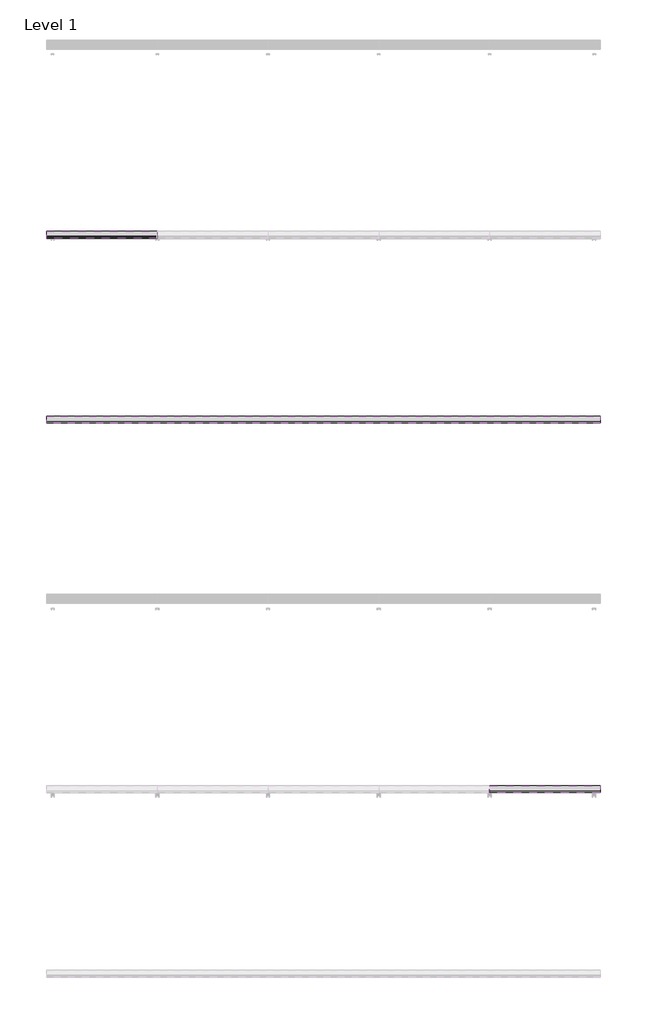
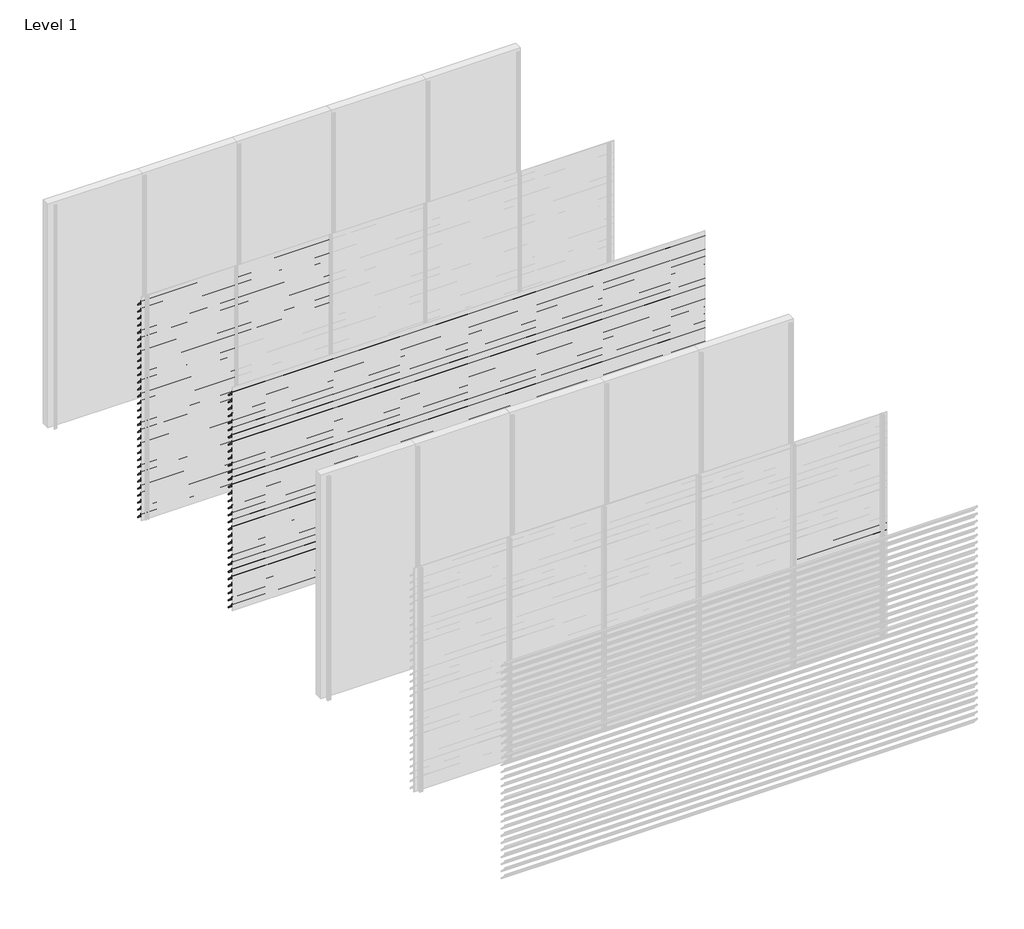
# One storey, part 20 of 24: 89 proxies.
"""IFC4 building model written with IfcOpenShell, lengths in millimetres."""

from ifc_helpers import new_model, si_unit, frame, origin, place, context, project, spatial, polyline, outline, extrude, element, save

model = new_model("IFC4")

# Units and contexts
model_context = context("Model", 3, world=origin())
ifc_project = project(units=[si_unit("LENGTHUNIT", "METRE", prefix="MILLI")], contexts=[model_context])

# Site, building, storey
site = spatial("IfcSite", under=ifc_project)
building = spatial("IfcBuilding", under=site)
storey = spatial("IfcBuildingStorey", under=building, Name="Level 1", Elevation=0.0)

# Proxies
placement = place(None, origin())
element("IfcBuildingElementProxy", 1, Name="Wall Sweeps", at=placement, inside=storey, context=model_context, shape_type="SweptSolid", body=[
    extrude(outline(polyline([(-5920.8, 2842.9), (-5922.3, 2842.9), (-5922.3, 2855.1762333), (-5998.0, 2930.4561238), (-5998.0, 2945.0), (-5996.5, 2945.0), (-5996.5, 2931.0798905), (-5920.8, 2855.8), (-5920.8, 2842.9)])), frame((0.0, 0.0, 0.0), z_axis=(1.0, 0.0, 0.0), x_axis=(0.0, 1.0, 0.0)), (0.0, 0.0, 1.0), 1200.0),
])
element("IfcBuildingElementProxy", 2, Name="Wall Sweeps", at=placement, inside=storey, context=model_context, shape_type="SweptSolid", body=[
    extrude(outline(polyline([(-5920.8, 2747.9), (-5922.3, 2747.9), (-5922.3, 2760.1762333), (-5998.0, 2835.4561238), (-5998.0, 2850.0), (-5996.5, 2850.0), (-5996.5, 2836.0798905), (-5920.8, 2760.8), (-5920.8, 2747.9)])), frame((0.0, 0.0, 0.0), z_axis=(1.0, 0.0, 0.0), x_axis=(0.0, 1.0, 0.0)), (0.0, 0.0, 1.0), 1200.0),
])
element("IfcBuildingElementProxy", 3, Name="Wall Sweeps", at=placement, inside=storey, context=model_context, shape_type="SweptSolid", body=[
    extrude(outline(polyline([(-5920.8, 2652.9), (-5922.3, 2652.9), (-5922.3, 2665.1762333), (-5998.0, 2740.4561238), (-5998.0, 2755.0), (-5996.5, 2755.0), (-5996.5, 2741.0798905), (-5920.8, 2665.8), (-5920.8, 2652.9)])), frame((0.0, 0.0, 0.0), z_axis=(1.0, 0.0, 0.0), x_axis=(0.0, 1.0, 0.0)), (0.0, 0.0, 1.0), 1200.0),
])
element("IfcBuildingElementProxy", 4, Name="Wall Sweeps", at=placement, inside=storey, context=model_context, shape_type="SweptSolid", body=[
    extrude(outline(polyline([(-5920.8, 2557.9), (-5922.3, 2557.9), (-5922.3, 2570.1762333), (-5998.0, 2645.4561238), (-5998.0, 2660.0), (-5996.5, 2660.0), (-5996.5, 2646.0798905), (-5920.8, 2570.8), (-5920.8, 2557.9)])), frame((0.0, 0.0, 0.0), z_axis=(1.0, 0.0, 0.0), x_axis=(0.0, 1.0, 0.0)), (0.0, 0.0, 1.0), 1200.0),
])
element("IfcBuildingElementProxy", 5, Name="Wall Sweeps", at=placement, inside=storey, context=model_context, shape_type="SweptSolid", body=[
    extrude(outline(polyline([(-5920.8, 2462.9), (-5922.3, 2462.9), (-5922.3, 2475.1762333), (-5998.0, 2550.4561238), (-5998.0, 2565.0), (-5996.5, 2565.0), (-5996.5, 2551.0798905), (-5920.8, 2475.8), (-5920.8, 2462.9)])), frame((0.0, 0.0, 0.0), z_axis=(1.0, 0.0, 0.0), x_axis=(0.0, 1.0, 0.0)), (0.0, 0.0, 1.0), 1200.0),
])
element("IfcBuildingElementProxy", 6, Name="Wall Sweeps", at=placement, inside=storey, context=model_context, shape_type="SweptSolid", body=[
    extrude(outline(polyline([(-5920.8, 2367.9), (-5922.3, 2367.9), (-5922.3, 2380.1762333), (-5998.0, 2455.4561238), (-5998.0, 2470.0), (-5996.5, 2470.0), (-5996.5, 2456.0798905), (-5920.8, 2380.8), (-5920.8, 2367.9)])), frame((0.0, 0.0, 0.0), z_axis=(1.0, 0.0, 0.0), x_axis=(0.0, 1.0, 0.0)), (0.0, 0.0, 1.0), 1200.0),
])
element("IfcBuildingElementProxy", 7, Name="Wall Sweeps", at=placement, inside=storey, context=model_context, shape_type="SweptSolid", body=[
    extrude(outline(polyline([(-5920.8, 2272.9), (-5922.3, 2272.9), (-5922.3, 2285.1762333), (-5998.0, 2360.4561238), (-5998.0, 2375.0), (-5996.5, 2375.0), (-5996.5, 2361.0798905), (-5920.8, 2285.8), (-5920.8, 2272.9)])), frame((0.0, 0.0, 0.0), z_axis=(1.0, 0.0, 0.0), x_axis=(0.0, 1.0, 0.0)), (0.0, 0.0, 1.0), 1200.0),
])
element("IfcBuildingElementProxy", 8, Name="Wall Sweeps", at=placement, inside=storey, context=model_context, shape_type="SweptSolid", body=[
    extrude(outline(polyline([(-5920.8, 2177.9), (-5922.3, 2177.9), (-5922.3, 2190.1762333), (-5998.0, 2265.4561238), (-5998.0, 2280.0), (-5996.5, 2280.0), (-5996.5, 2266.0798905), (-5920.8, 2190.8), (-5920.8, 2177.9)])), frame((0.0, 0.0, 0.0), z_axis=(1.0, 0.0, 0.0), x_axis=(0.0, 1.0, 0.0)), (0.0, 0.0, 1.0), 1200.0),
])
element("IfcBuildingElementProxy", 9, Name="Wall Sweeps", at=placement, inside=storey, context=model_context, shape_type="SweptSolid", body=[
    extrude(outline(polyline([(-5920.8, 2082.9), (-5922.3, 2082.9), (-5922.3, 2095.1762333), (-5998.0, 2170.4561238), (-5998.0, 2185.0), (-5996.5, 2185.0), (-5996.5, 2171.0798905), (-5920.8, 2095.8), (-5920.8, 2082.9)])), frame((0.0, 0.0, 0.0), z_axis=(1.0, 0.0, 0.0), x_axis=(0.0, 1.0, 0.0)), (0.0, 0.0, 1.0), 1200.0),
])
element("IfcBuildingElementProxy", 10, Name="Wall Sweeps", at=placement, inside=storey, context=model_context, shape_type="SweptSolid", body=[
    extrude(outline(polyline([(-5920.8, 1987.9), (-5922.3, 1987.9), (-5922.3, 2000.1762333), (-5998.0, 2075.4561238), (-5998.0, 2090.0), (-5996.5, 2090.0), (-5996.5, 2076.0798905), (-5920.8, 2000.8), (-5920.8, 1987.9)])), frame((0.0, 0.0, 0.0), z_axis=(1.0, 0.0, 0.0), x_axis=(0.0, 1.0, 0.0)), (0.0, 0.0, 1.0), 1200.0),
])
element("IfcBuildingElementProxy", 11, Name="Wall Sweeps", at=placement, inside=storey, context=model_context, shape_type="SweptSolid", body=[
    extrude(outline(polyline([(-5920.8, 1892.9), (-5922.3, 1892.9), (-5922.3, 1905.1762333), (-5998.0, 1980.4561238), (-5998.0, 1995.0), (-5996.5, 1995.0), (-5996.5, 1981.0798905), (-5920.8, 1905.8), (-5920.8, 1892.9)])), frame((0.0, 0.0, 0.0), z_axis=(1.0, 0.0, 0.0), x_axis=(0.0, 1.0, 0.0)), (0.0, 0.0, 1.0), 1200.0),
])
element("IfcBuildingElementProxy", 12, Name="Wall Sweeps", at=placement, inside=storey, context=model_context, shape_type="SweptSolid", body=[
    extrude(outline(polyline([(-5920.8, 1797.9), (-5922.3, 1797.9), (-5922.3, 1810.1762333), (-5998.0, 1885.4561238), (-5998.0, 1900.0), (-5996.5, 1900.0), (-5996.5, 1886.0798905), (-5920.8, 1810.8), (-5920.8, 1797.9)])), frame((0.0, 0.0, 0.0), z_axis=(1.0, 0.0, 0.0), x_axis=(0.0, 1.0, 0.0)), (0.0, 0.0, 1.0), 1200.0),
])
element("IfcBuildingElementProxy", 13, Name="Wall Sweeps", at=placement, inside=storey, context=model_context, shape_type="SweptSolid", body=[
    extrude(outline(polyline([(-5920.8, 1702.9), (-5922.3, 1702.9), (-5922.3, 1715.1762333), (-5998.0, 1790.4561238), (-5998.0, 1805.0), (-5996.5, 1805.0), (-5996.5, 1791.0798905), (-5920.8, 1715.8), (-5920.8, 1702.9)])), frame((0.0, 0.0, 0.0), z_axis=(1.0, 0.0, 0.0), x_axis=(0.0, 1.0, 0.0)), (0.0, 0.0, 1.0), 1200.0),
])
element("IfcBuildingElementProxy", 14, Name="Wall Sweeps", at=placement, inside=storey, context=model_context, shape_type="SweptSolid", body=[
    extrude(outline(polyline([(-5920.8, 1607.9), (-5922.3, 1607.9), (-5922.3, 1620.1762333), (-5998.0, 1695.4561238), (-5998.0, 1710.0), (-5996.5, 1710.0), (-5996.5, 1696.0798905), (-5920.8, 1620.8), (-5920.8, 1607.9)])), frame((0.0, 0.0, 0.0), z_axis=(1.0, 0.0, 0.0), x_axis=(0.0, 1.0, 0.0)), (0.0, 0.0, 1.0), 1200.0),
])
element("IfcBuildingElementProxy", 15, Name="Wall Sweeps", at=placement, inside=storey, context=model_context, shape_type="SweptSolid", body=[
    extrude(outline(polyline([(-5920.8, 1512.9), (-5922.3, 1512.9), (-5922.3, 1525.1762333), (-5998.0, 1600.4561238), (-5998.0, 1615.0), (-5996.5, 1615.0), (-5996.5, 1601.0798905), (-5920.8, 1525.8), (-5920.8, 1512.9)])), frame((0.0, 0.0, 0.0), z_axis=(1.0, 0.0, 0.0), x_axis=(0.0, 1.0, 0.0)), (0.0, 0.0, 1.0), 1200.0),
])
element("IfcBuildingElementProxy", 16, Name="Wall Sweeps", at=placement, inside=storey, context=model_context, shape_type="SweptSolid", body=[
    extrude(outline(polyline([(-5920.8, 1417.9), (-5922.3, 1417.9), (-5922.3, 1430.1762333), (-5998.0, 1505.4561238), (-5998.0, 1520.0), (-5996.5, 1520.0), (-5996.5, 1506.0798905), (-5920.8, 1430.8), (-5920.8, 1417.9)])), frame((0.0, 0.0, 0.0), z_axis=(1.0, 0.0, 0.0), x_axis=(0.0, 1.0, 0.0)), (0.0, 0.0, 1.0), 1200.0),
])
element("IfcBuildingElementProxy", 17, Name="Wall Sweeps", at=placement, inside=storey, context=model_context, shape_type="SweptSolid", body=[
    extrude(outline(polyline([(-5920.8, 1322.9), (-5922.3, 1322.9), (-5922.3, 1335.1762333), (-5998.0, 1410.4561238), (-5998.0, 1425.0), (-5996.5, 1425.0), (-5996.5, 1411.0798905), (-5920.8, 1335.8), (-5920.8, 1322.9)])), frame((0.0, 0.0, 0.0), z_axis=(1.0, 0.0, 0.0), x_axis=(0.0, 1.0, 0.0)), (0.0, 0.0, 1.0), 1200.0),
])
element("IfcBuildingElementProxy", 18, Name="Wall Sweeps", at=placement, inside=storey, context=model_context, shape_type="SweptSolid", body=[
    extrude(outline(polyline([(-5920.8, 1227.9), (-5922.3, 1227.9), (-5922.3, 1240.1762333), (-5998.0, 1315.4561238), (-5998.0, 1330.0), (-5996.5, 1330.0), (-5996.5, 1316.0798905), (-5920.8, 1240.8), (-5920.8, 1227.9)])), frame((0.0, 0.0, 0.0), z_axis=(1.0, 0.0, 0.0), x_axis=(0.0, 1.0, 0.0)), (0.0, 0.0, 1.0), 1200.0),
])
element("IfcBuildingElementProxy", 19, Name="Wall Sweeps", at=placement, inside=storey, context=model_context, shape_type="SweptSolid", body=[
    extrude(outline(polyline([(-5920.8, 1132.9), (-5922.3, 1132.9), (-5922.3, 1145.1762333), (-5998.0, 1220.4561238), (-5998.0, 1235.0), (-5996.5, 1235.0), (-5996.5, 1221.0798905), (-5920.8, 1145.8), (-5920.8, 1132.9)])), frame((0.0, 0.0, 0.0), z_axis=(1.0, 0.0, 0.0), x_axis=(0.0, 1.0, 0.0)), (0.0, 0.0, 1.0), 1200.0),
])
element("IfcBuildingElementProxy", 20, Name="Wall Sweeps", at=placement, inside=storey, context=model_context, shape_type="SweptSolid", body=[
    extrude(outline(polyline([(-5920.8, 1037.9), (-5922.3, 1037.9), (-5922.3, 1050.1762333), (-5998.0, 1125.4561238), (-5998.0, 1140.0), (-5996.5, 1140.0), (-5996.5, 1126.0798905), (-5920.8, 1050.8), (-5920.8, 1037.9)])), frame((0.0, 0.0, 0.0), z_axis=(1.0, 0.0, 0.0), x_axis=(0.0, 1.0, 0.0)), (0.0, 0.0, 1.0), 1200.0),
])
element("IfcBuildingElementProxy", 21, Name="Wall Sweeps", at=placement, inside=storey, context=model_context, shape_type="SweptSolid", body=[
    extrude(outline(polyline([(-5920.8, 942.9), (-5922.3, 942.9), (-5922.3, 955.1762333), (-5998.0, 1030.4561238), (-5998.0, 1045.0), (-5996.5, 1045.0), (-5996.5, 1031.0798905), (-5920.8, 955.8), (-5920.8, 942.9)])), frame((0.0, 0.0, 0.0), z_axis=(1.0, 0.0, 0.0), x_axis=(0.0, 1.0, 0.0)), (0.0, 0.0, 1.0), 1200.0),
])
element("IfcBuildingElementProxy", 22, Name="Wall Sweeps", at=placement, inside=storey, context=model_context, shape_type="SweptSolid", body=[
    extrude(outline(polyline([(-5920.8, 847.9), (-5922.3, 847.9), (-5922.3, 860.1762333), (-5998.0, 935.4561238), (-5998.0, 950.0), (-5996.5, 950.0), (-5996.5, 936.0798905), (-5920.8, 860.8), (-5920.8, 847.9)])), frame((0.0, 0.0, 0.0), z_axis=(1.0, 0.0, 0.0), x_axis=(0.0, 1.0, 0.0)), (0.0, 0.0, 1.0), 1200.0),
])
element("IfcBuildingElementProxy", 23, Name="Wall Sweeps", at=placement, inside=storey, context=model_context, shape_type="SweptSolid", body=[
    extrude(outline(polyline([(-5920.8, 752.9), (-5922.3, 752.9), (-5922.3, 765.1762333), (-5998.0, 840.4561238), (-5998.0, 855.0), (-5996.5, 855.0), (-5996.5, 841.0798905), (-5920.8, 765.8), (-5920.8, 752.9)])), frame((0.0, 0.0, 0.0), z_axis=(1.0, 0.0, 0.0), x_axis=(0.0, 1.0, 0.0)), (0.0, 0.0, 1.0), 1200.0),
])
element("IfcBuildingElementProxy", 24, Name="Wall Sweeps", at=placement, inside=storey, context=model_context, shape_type="SweptSolid", body=[
    extrude(outline(polyline([(-5920.8, 657.9), (-5922.3, 657.9), (-5922.3, 670.1762333), (-5998.0, 745.4561238), (-5998.0, 760.0), (-5996.5, 760.0), (-5996.5, 746.0798905), (-5920.8, 670.8), (-5920.8, 657.9)])), frame((0.0, 0.0, 0.0), z_axis=(1.0, 0.0, 0.0), x_axis=(0.0, 1.0, 0.0)), (0.0, 0.0, 1.0), 1200.0),
])
element("IfcBuildingElementProxy", 25, Name="Wall Sweeps", at=placement, inside=storey, context=model_context, shape_type="SweptSolid", body=[
    extrude(outline(polyline([(-5920.8, 562.9), (-5922.3, 562.9), (-5922.3, 575.1762333), (-5998.0, 650.4561238), (-5998.0, 665.0), (-5996.5, 665.0), (-5996.5, 651.0798905), (-5920.8, 575.8), (-5920.8, 562.9)])), frame((0.0, 0.0, 0.0), z_axis=(1.0, 0.0, 0.0), x_axis=(0.0, 1.0, 0.0)), (0.0, 0.0, 1.0), 1200.0),
])
element("IfcBuildingElementProxy", 26, Name="Wall Sweeps", at=placement, inside=storey, context=model_context, shape_type="SweptSolid", body=[
    extrude(outline(polyline([(-5920.8, 467.9), (-5922.3, 467.9), (-5922.3, 480.1762333), (-5998.0, 555.4561238), (-5998.0, 570.0), (-5996.5, 570.0), (-5996.5, 556.0798905), (-5920.8, 480.8), (-5920.8, 467.9)])), frame((0.0, 0.0, 0.0), z_axis=(1.0, 0.0, 0.0), x_axis=(0.0, 1.0, 0.0)), (0.0, 0.0, 1.0), 1200.0),
])
element("IfcBuildingElementProxy", 27, Name="Wall Sweeps", at=placement, inside=storey, context=model_context, shape_type="SweptSolid", body=[
    extrude(outline(polyline([(-5920.8, 372.9), (-5922.3, 372.9), (-5922.3, 385.1762333), (-5998.0, 460.4561238), (-5998.0, 475.0), (-5996.5, 475.0), (-5996.5, 461.0798905), (-5920.8, 385.8), (-5920.8, 372.9)])), frame((0.0, 0.0, 0.0), z_axis=(1.0, 0.0, 0.0), x_axis=(0.0, 1.0, 0.0)), (0.0, 0.0, 1.0), 1200.0),
])
element("IfcBuildingElementProxy", 28, Name="Wall Sweeps", at=placement, inside=storey, context=model_context, shape_type="SweptSolid", body=[
    extrude(outline(polyline([(-5920.8, 277.9), (-5922.3, 277.9), (-5922.3, 290.1762333), (-5998.0, 365.4561238), (-5998.0, 380.0), (-5996.5, 380.0), (-5996.5, 366.0798905), (-5920.8, 290.8), (-5920.8, 277.9)])), frame((0.0, 0.0, 0.0), z_axis=(1.0, 0.0, 0.0), x_axis=(0.0, 1.0, 0.0)), (0.0, 0.0, 1.0), 1200.0),
])
element("IfcBuildingElementProxy", 29, Name="Wall Sweeps", at=placement, inside=storey, context=model_context, shape_type="SweptSolid", body=[
    extrude(outline(polyline([(-5920.8, 182.9), (-5922.3, 182.9), (-5922.3, 195.1762333), (-5998.0, 270.4561238), (-5998.0, 285.0), (-5996.5, 285.0), (-5996.5, 271.0798905), (-5920.8, 195.8), (-5920.8, 182.9)])), frame((0.0, 0.0, 0.0), z_axis=(1.0, 0.0, 0.0), x_axis=(0.0, 1.0, 0.0)), (0.0, 0.0, 1.0), 1200.0),
])
element("IfcBuildingElementProxy", 30, Name="Wall Sweeps", at=placement, inside=storey, context=model_context, shape_type="SweptSolid", body=[
    extrude(outline(polyline([(-5920.8, 87.9), (-5922.3, 87.9), (-5922.3, 100.1762333), (-5998.0, 175.4561238), (-5998.0, 190.0), (-5996.5, 190.0), (-5996.5, 176.0798905), (-5920.8, 100.8), (-5920.8, 87.9)])), frame((0.0, 0.0, 0.0), z_axis=(1.0, 0.0, 0.0), x_axis=(0.0, 1.0, 0.0)), (0.0, 0.0, 1.0), 1200.0),
])
element("IfcBuildingElementProxy", 31, Name="Wall Sweeps", at=placement, inside=storey, context=model_context, shape_type="SweptSolid", body=[
    extrude(outline(polyline([(-5920.8, -7.1), (-5922.3, -7.1), (-5922.3, 5.1762333), (-5998.0, 80.4561238), (-5998.0, 95.0), (-5996.5, 95.0), (-5996.5, 81.0798905), (-5920.8, 5.8), (-5920.8, -7.1)])), frame((0.0, 0.0, 0.0), z_axis=(1.0, 0.0, 0.0), x_axis=(0.0, 1.0, 0.0)), (0.0, 0.0, 1.0), 1200.0),
])
element("IfcBuildingElementProxy", 32, Name="Wall Sweeps", at=placement, inside=storey, context=model_context, shape_type="SweptSolid", body=[
    extrude(outline(polyline([(-5920.8, 2842.9), (-5922.3, 2842.9), (-5922.3, 2855.1762333), (-5998.0, 2930.4561238), (-5998.0, 2945.0), (-5996.5, 2945.0), (-5996.5, 2931.0798905), (-5920.8, 2855.8), (-5920.8, 2842.9)])), frame((1200.0, 0.0, 0.0), z_axis=(1.0, 0.0, 0.0), x_axis=(0.0, 1.0, 0.0)), (0.0, 0.0, 1.0), 1200.0),
])
element("IfcBuildingElementProxy", 33, Name="Wall Sweeps", at=placement, inside=storey, context=model_context, shape_type="SweptSolid", body=[
    extrude(outline(polyline([(-5920.8, 2747.9), (-5922.3, 2747.9), (-5922.3, 2760.1762333), (-5998.0, 2835.4561238), (-5998.0, 2850.0), (-5996.5, 2850.0), (-5996.5, 2836.0798905), (-5920.8, 2760.8), (-5920.8, 2747.9)])), frame((1200.0, 0.0, 0.0), z_axis=(1.0, 0.0, 0.0), x_axis=(0.0, 1.0, 0.0)), (0.0, 0.0, 1.0), 1200.0),
])
element("IfcBuildingElementProxy", 34, Name="Wall Sweeps", at=placement, inside=storey, context=model_context, shape_type="SweptSolid", body=[
    extrude(outline(polyline([(-5920.8, 2652.9), (-5922.3, 2652.9), (-5922.3, 2665.1762333), (-5998.0, 2740.4561238), (-5998.0, 2755.0), (-5996.5, 2755.0), (-5996.5, 2741.0798905), (-5920.8, 2665.8), (-5920.8, 2652.9)])), frame((1200.0, 0.0, 0.0), z_axis=(1.0, 0.0, 0.0), x_axis=(0.0, 1.0, 0.0)), (0.0, 0.0, 1.0), 1200.0),
])
element("IfcBuildingElementProxy", 35, Name="Wall Sweeps", at=placement, inside=storey, context=model_context, shape_type="SweptSolid", body=[
    extrude(outline(polyline([(-5920.8, 2557.9), (-5922.3, 2557.9), (-5922.3, 2570.1762333), (-5998.0, 2645.4561238), (-5998.0, 2660.0), (-5996.5, 2660.0), (-5996.5, 2646.0798905), (-5920.8, 2570.8), (-5920.8, 2557.9)])), frame((1200.0, 0.0, 0.0), z_axis=(1.0, 0.0, 0.0), x_axis=(0.0, 1.0, 0.0)), (0.0, 0.0, 1.0), 1200.0),
])
element("IfcBuildingElementProxy", 36, Name="Wall Sweeps", at=placement, inside=storey, context=model_context, shape_type="SweptSolid", body=[
    extrude(outline(polyline([(-5920.8, 2462.9), (-5922.3, 2462.9), (-5922.3, 2475.1762333), (-5998.0, 2550.4561238), (-5998.0, 2565.0), (-5996.5, 2565.0), (-5996.5, 2551.0798905), (-5920.8, 2475.8), (-5920.8, 2462.9)])), frame((1200.0, 0.0, 0.0), z_axis=(1.0, 0.0, 0.0), x_axis=(0.0, 1.0, 0.0)), (0.0, 0.0, 1.0), 1200.0),
])
element("IfcBuildingElementProxy", 37, Name="Wall Sweeps", at=placement, inside=storey, context=model_context, shape_type="SweptSolid", body=[
    extrude(outline(polyline([(-5920.8, 2367.9), (-5922.3, 2367.9), (-5922.3, 2380.1762333), (-5998.0, 2455.4561238), (-5998.0, 2470.0), (-5996.5, 2470.0), (-5996.5, 2456.0798905), (-5920.8, 2380.8), (-5920.8, 2367.9)])), frame((1200.0, 0.0, 0.0), z_axis=(1.0, 0.0, 0.0), x_axis=(0.0, 1.0, 0.0)), (0.0, 0.0, 1.0), 1200.0),
])
element("IfcBuildingElementProxy", 38, Name="Wall Sweeps", at=placement, inside=storey, context=model_context, shape_type="SweptSolid", body=[
    extrude(outline(polyline([(-5920.8, 2272.9), (-5922.3, 2272.9), (-5922.3, 2285.1762333), (-5998.0, 2360.4561238), (-5998.0, 2375.0), (-5996.5, 2375.0), (-5996.5, 2361.0798905), (-5920.8, 2285.8), (-5920.8, 2272.9)])), frame((1200.0, 0.0, 0.0), z_axis=(1.0, 0.0, 0.0), x_axis=(0.0, 1.0, 0.0)), (0.0, 0.0, 1.0), 1200.0),
])
element("IfcBuildingElementProxy", 39, Name="Wall Sweeps", at=placement, inside=storey, context=model_context, shape_type="SweptSolid", body=[
    extrude(outline(polyline([(-5920.8, 2177.9), (-5922.3, 2177.9), (-5922.3, 2190.1762333), (-5998.0, 2265.4561238), (-5998.0, 2280.0), (-5996.5, 2280.0), (-5996.5, 2266.0798905), (-5920.8, 2190.8), (-5920.8, 2177.9)])), frame((1200.0, 0.0, 0.0), z_axis=(1.0, 0.0, 0.0), x_axis=(0.0, 1.0, 0.0)), (0.0, 0.0, 1.0), 1200.0),
])
element("IfcBuildingElementProxy", 40, Name="Wall Sweeps", at=placement, inside=storey, context=model_context, shape_type="SweptSolid", body=[
    extrude(outline(polyline([(-5920.8, 2082.9), (-5922.3, 2082.9), (-5922.3, 2095.1762333), (-5998.0, 2170.4561238), (-5998.0, 2185.0), (-5996.5, 2185.0), (-5996.5, 2171.0798905), (-5920.8, 2095.8), (-5920.8, 2082.9)])), frame((1200.0, 0.0, 0.0), z_axis=(1.0, 0.0, 0.0), x_axis=(0.0, 1.0, 0.0)), (0.0, 0.0, 1.0), 1200.0),
])
element("IfcBuildingElementProxy", 41, Name="Wall Sweeps", at=placement, inside=storey, context=model_context, shape_type="SweptSolid", body=[
    extrude(outline(polyline([(-5920.8, 1987.9), (-5922.3, 1987.9), (-5922.3, 2000.1762333), (-5998.0, 2075.4561238), (-5998.0, 2090.0), (-5996.5, 2090.0), (-5996.5, 2076.0798905), (-5920.8, 2000.8), (-5920.8, 1987.9)])), frame((1200.0, 0.0, 0.0), z_axis=(1.0, 0.0, 0.0), x_axis=(0.0, 1.0, 0.0)), (0.0, 0.0, 1.0), 1200.0),
])
element("IfcBuildingElementProxy", 42, Name="Wall Sweeps", at=placement, inside=storey, context=model_context, shape_type="SweptSolid", body=[
    extrude(outline(polyline([(-5920.8, 1892.9), (-5922.3, 1892.9), (-5922.3, 1905.1762333), (-5998.0, 1980.4561238), (-5998.0, 1995.0), (-5996.5, 1995.0), (-5996.5, 1981.0798905), (-5920.8, 1905.8), (-5920.8, 1892.9)])), frame((1200.0, 0.0, 0.0), z_axis=(1.0, 0.0, 0.0), x_axis=(0.0, 1.0, 0.0)), (0.0, 0.0, 1.0), 1200.0),
])
element("IfcBuildingElementProxy", 43, Name="Wall Sweeps", at=placement, inside=storey, context=model_context, shape_type="SweptSolid", body=[
    extrude(outline(polyline([(-7920.8, 2842.9), (-7922.3, 2842.9), (-7922.3, 2855.1762333), (-7998.0, 2930.4561238), (-7998.0, 2945.0), (-7996.5, 2945.0), (-7996.5, 2931.0798905), (-7920.8, 2855.8), (-7920.8, 2842.9)])), frame((0.0, 0.0, 0.0), z_axis=(1.0, 0.0, 0.0), x_axis=(0.0, 1.0, 0.0)), (0.0, 0.0, 1.0), 6000.0),
])
element("IfcBuildingElementProxy", 44, Name="Wall Sweeps", at=placement, inside=storey, context=model_context, shape_type="SweptSolid", body=[
    extrude(outline(polyline([(-7920.8, 2747.9), (-7922.3, 2747.9), (-7922.3, 2760.1762333), (-7998.0, 2835.4561238), (-7998.0, 2850.0), (-7996.5, 2850.0), (-7996.5, 2836.0798905), (-7920.8, 2760.8), (-7920.8, 2747.9)])), frame((0.0, 0.0, 0.0), z_axis=(1.0, 0.0, 0.0), x_axis=(0.0, 1.0, 0.0)), (0.0, 0.0, 1.0), 6000.0),
])
element("IfcBuildingElementProxy", 45, Name="Wall Sweeps", at=placement, inside=storey, context=model_context, shape_type="SweptSolid", body=[
    extrude(outline(polyline([(-7920.8, 2652.9), (-7922.3, 2652.9), (-7922.3, 2665.1762333), (-7998.0, 2740.4561238), (-7998.0, 2755.0), (-7996.5, 2755.0), (-7996.5, 2741.0798905), (-7920.8, 2665.8), (-7920.8, 2652.9)])), frame((0.0, 0.0, 0.0), z_axis=(1.0, 0.0, 0.0), x_axis=(0.0, 1.0, 0.0)), (0.0, 0.0, 1.0), 6000.0),
])
element("IfcBuildingElementProxy", 46, Name="Wall Sweeps", at=placement, inside=storey, context=model_context, shape_type="SweptSolid", body=[
    extrude(outline(polyline([(-7920.8, 2557.9), (-7922.3, 2557.9), (-7922.3, 2570.1762333), (-7998.0, 2645.4561238), (-7998.0, 2660.0), (-7996.5, 2660.0), (-7996.5, 2646.0798905), (-7920.8, 2570.8), (-7920.8, 2557.9)])), frame((0.0, 0.0, 0.0), z_axis=(1.0, 0.0, 0.0), x_axis=(0.0, 1.0, 0.0)), (0.0, 0.0, 1.0), 6000.0),
])
element("IfcBuildingElementProxy", 47, Name="Wall Sweeps", at=placement, inside=storey, context=model_context, shape_type="SweptSolid", body=[
    extrude(outline(polyline([(-7920.8, 2462.9), (-7922.3, 2462.9), (-7922.3, 2475.1762333), (-7998.0, 2550.4561238), (-7998.0, 2565.0), (-7996.5, 2565.0), (-7996.5, 2551.0798905), (-7920.8, 2475.8), (-7920.8, 2462.9)])), frame((0.0, 0.0, 0.0), z_axis=(1.0, 0.0, 0.0), x_axis=(0.0, 1.0, 0.0)), (0.0, 0.0, 1.0), 6000.0),
])
element("IfcBuildingElementProxy", 48, Name="Wall Sweeps", at=placement, inside=storey, context=model_context, shape_type="SweptSolid", body=[
    extrude(outline(polyline([(-7920.8, 2367.9), (-7922.3, 2367.9), (-7922.3, 2380.1762333), (-7998.0, 2455.4561238), (-7998.0, 2470.0), (-7996.5, 2470.0), (-7996.5, 2456.0798905), (-7920.8, 2380.8), (-7920.8, 2367.9)])), frame((0.0, 0.0, 0.0), z_axis=(1.0, 0.0, 0.0), x_axis=(0.0, 1.0, 0.0)), (0.0, 0.0, 1.0), 6000.0),
])
element("IfcBuildingElementProxy", 49, Name="Wall Sweeps", at=placement, inside=storey, context=model_context, shape_type="SweptSolid", body=[
    extrude(outline(polyline([(-7920.8, 2272.9), (-7922.3, 2272.9), (-7922.3, 2285.1762333), (-7998.0, 2360.4561238), (-7998.0, 2375.0), (-7996.5, 2375.0), (-7996.5, 2361.0798905), (-7920.8, 2285.8), (-7920.8, 2272.9)])), frame((0.0, 0.0, 0.0), z_axis=(1.0, 0.0, 0.0), x_axis=(0.0, 1.0, 0.0)), (0.0, 0.0, 1.0), 6000.0),
])
element("IfcBuildingElementProxy", 50, Name="Wall Sweeps", at=placement, inside=storey, context=model_context, shape_type="SweptSolid", body=[
    extrude(outline(polyline([(-7920.8, 2177.9), (-7922.3, 2177.9), (-7922.3, 2190.1762333), (-7998.0, 2265.4561238), (-7998.0, 2280.0), (-7996.5, 2280.0), (-7996.5, 2266.0798905), (-7920.8, 2190.8), (-7920.8, 2177.9)])), frame((0.0, 0.0, 0.0), z_axis=(1.0, 0.0, 0.0), x_axis=(0.0, 1.0, 0.0)), (0.0, 0.0, 1.0), 6000.0),
])
element("IfcBuildingElementProxy", 51, Name="Wall Sweeps", at=placement, inside=storey, context=model_context, shape_type="SweptSolid", body=[
    extrude(outline(polyline([(-7920.8, 2082.9), (-7922.3, 2082.9), (-7922.3, 2095.1762333), (-7998.0, 2170.4561238), (-7998.0, 2185.0), (-7996.5, 2185.0), (-7996.5, 2171.0798905), (-7920.8, 2095.8), (-7920.8, 2082.9)])), frame((0.0, 0.0, 0.0), z_axis=(1.0, 0.0, 0.0), x_axis=(0.0, 1.0, 0.0)), (0.0, 0.0, 1.0), 6000.0),
])
element("IfcBuildingElementProxy", 52, Name="Wall Sweeps", at=placement, inside=storey, context=model_context, shape_type="SweptSolid", body=[
    extrude(outline(polyline([(-7920.8, 1987.9), (-7922.3, 1987.9), (-7922.3, 2000.1762333), (-7998.0, 2075.4561238), (-7998.0, 2090.0), (-7996.5, 2090.0), (-7996.5, 2076.0798905), (-7920.8, 2000.8), (-7920.8, 1987.9)])), frame((0.0, 0.0, 0.0), z_axis=(1.0, 0.0, 0.0), x_axis=(0.0, 1.0, 0.0)), (0.0, 0.0, 1.0), 6000.0),
])
element("IfcBuildingElementProxy", 53, Name="Wall Sweeps", at=placement, inside=storey, context=model_context, shape_type="SweptSolid", body=[
    extrude(outline(polyline([(-7920.8, 1892.9), (-7922.3, 1892.9), (-7922.3, 1905.1762333), (-7998.0, 1980.4561238), (-7998.0, 1995.0), (-7996.5, 1995.0), (-7996.5, 1981.0798905), (-7920.8, 1905.8), (-7920.8, 1892.9)])), frame((0.0, 0.0, 0.0), z_axis=(1.0, 0.0, 0.0), x_axis=(0.0, 1.0, 0.0)), (0.0, 0.0, 1.0), 6000.0),
])
element("IfcBuildingElementProxy", 54, Name="Wall Sweeps", at=placement, inside=storey, context=model_context, shape_type="SweptSolid", body=[
    extrude(outline(polyline([(-7920.8, 1797.9), (-7922.3, 1797.9), (-7922.3, 1810.1762333), (-7998.0, 1885.4561238), (-7998.0, 1900.0), (-7996.5, 1900.0), (-7996.5, 1886.0798905), (-7920.8, 1810.8), (-7920.8, 1797.9)])), frame((0.0, 0.0, 0.0), z_axis=(1.0, 0.0, 0.0), x_axis=(0.0, 1.0, 0.0)), (0.0, 0.0, 1.0), 6000.0),
])
element("IfcBuildingElementProxy", 55, Name="Wall Sweeps", at=placement, inside=storey, context=model_context, shape_type="SweptSolid", body=[
    extrude(outline(polyline([(-7920.8, 1702.9), (-7922.3, 1702.9), (-7922.3, 1715.1762333), (-7998.0, 1790.4561238), (-7998.0, 1805.0), (-7996.5, 1805.0), (-7996.5, 1791.0798905), (-7920.8, 1715.8), (-7920.8, 1702.9)])), frame((0.0, 0.0, 0.0), z_axis=(1.0, 0.0, 0.0), x_axis=(0.0, 1.0, 0.0)), (0.0, 0.0, 1.0), 6000.0),
])
element("IfcBuildingElementProxy", 56, Name="Wall Sweeps", at=placement, inside=storey, context=model_context, shape_type="SweptSolid", body=[
    extrude(outline(polyline([(-7920.8, 1607.9), (-7922.3, 1607.9), (-7922.3, 1620.1762333), (-7998.0, 1695.4561238), (-7998.0, 1710.0), (-7996.5, 1710.0), (-7996.5, 1696.0798905), (-7920.8, 1620.8), (-7920.8, 1607.9)])), frame((0.0, 0.0, 0.0), z_axis=(1.0, 0.0, 0.0), x_axis=(0.0, 1.0, 0.0)), (0.0, 0.0, 1.0), 6000.0),
])
element("IfcBuildingElementProxy", 57, Name="Wall Sweeps", at=placement, inside=storey, context=model_context, shape_type="SweptSolid", body=[
    extrude(outline(polyline([(-7920.8, 1512.9), (-7922.3, 1512.9), (-7922.3, 1525.1762333), (-7998.0, 1600.4561238), (-7998.0, 1615.0), (-7996.5, 1615.0), (-7996.5, 1601.0798905), (-7920.8, 1525.8), (-7920.8, 1512.9)])), frame((0.0, 0.0, 0.0), z_axis=(1.0, 0.0, 0.0), x_axis=(0.0, 1.0, 0.0)), (0.0, 0.0, 1.0), 6000.0),
])
element("IfcBuildingElementProxy", 58, Name="Wall Sweeps", at=placement, inside=storey, context=model_context, shape_type="SweptSolid", body=[
    extrude(outline(polyline([(-7920.8, 1417.9), (-7922.3, 1417.9), (-7922.3, 1430.1762333), (-7998.0, 1505.4561238), (-7998.0, 1520.0), (-7996.5, 1520.0), (-7996.5, 1506.0798905), (-7920.8, 1430.8), (-7920.8, 1417.9)])), frame((0.0, 0.0, 0.0), z_axis=(1.0, 0.0, 0.0), x_axis=(0.0, 1.0, 0.0)), (0.0, 0.0, 1.0), 6000.0),
])
element("IfcBuildingElementProxy", 59, Name="Wall Sweeps", at=placement, inside=storey, context=model_context, shape_type="SweptSolid", body=[
    extrude(outline(polyline([(-7920.8, 1322.9), (-7922.3, 1322.9), (-7922.3, 1335.1762333), (-7998.0, 1410.4561238), (-7998.0, 1425.0), (-7996.5, 1425.0), (-7996.5, 1411.0798905), (-7920.8, 1335.8), (-7920.8, 1322.9)])), frame((0.0, 0.0, 0.0), z_axis=(1.0, 0.0, 0.0), x_axis=(0.0, 1.0, 0.0)), (0.0, 0.0, 1.0), 6000.0),
])
element("IfcBuildingElementProxy", 60, Name="Wall Sweeps", at=placement, inside=storey, context=model_context, shape_type="SweptSolid", body=[
    extrude(outline(polyline([(-7920.8, 1227.9), (-7922.3, 1227.9), (-7922.3, 1240.1762333), (-7998.0, 1315.4561238), (-7998.0, 1330.0), (-7996.5, 1330.0), (-7996.5, 1316.0798905), (-7920.8, 1240.8), (-7920.8, 1227.9)])), frame((0.0, 0.0, 0.0), z_axis=(1.0, 0.0, 0.0), x_axis=(0.0, 1.0, 0.0)), (0.0, 0.0, 1.0), 6000.0),
])
element("IfcBuildingElementProxy", 61, Name="Wall Sweeps", at=placement, inside=storey, context=model_context, shape_type="SweptSolid", body=[
    extrude(outline(polyline([(-7920.8, 1132.9), (-7922.3, 1132.9), (-7922.3, 1145.1762333), (-7998.0, 1220.4561238), (-7998.0, 1235.0), (-7996.5, 1235.0), (-7996.5, 1221.0798905), (-7920.8, 1145.8), (-7920.8, 1132.9)])), frame((0.0, 0.0, 0.0), z_axis=(1.0, 0.0, 0.0), x_axis=(0.0, 1.0, 0.0)), (0.0, 0.0, 1.0), 6000.0),
])
element("IfcBuildingElementProxy", 62, Name="Wall Sweeps", at=placement, inside=storey, context=model_context, shape_type="SweptSolid", body=[
    extrude(outline(polyline([(-7920.8, 1037.9), (-7922.3, 1037.9), (-7922.3, 1050.1762333), (-7998.0, 1125.4561238), (-7998.0, 1140.0), (-7996.5, 1140.0), (-7996.5, 1126.0798905), (-7920.8, 1050.8), (-7920.8, 1037.9)])), frame((0.0, 0.0, 0.0), z_axis=(1.0, 0.0, 0.0), x_axis=(0.0, 1.0, 0.0)), (0.0, 0.0, 1.0), 6000.0),
])
element("IfcBuildingElementProxy", 63, Name="Wall Sweeps", at=placement, inside=storey, context=model_context, shape_type="SweptSolid", body=[
    extrude(outline(polyline([(-7920.8, 942.9), (-7922.3, 942.9), (-7922.3, 955.1762333), (-7998.0, 1030.4561238), (-7998.0, 1045.0), (-7996.5, 1045.0), (-7996.5, 1031.0798905), (-7920.8, 955.8), (-7920.8, 942.9)])), frame((0.0, 0.0, 0.0), z_axis=(1.0, 0.0, 0.0), x_axis=(0.0, 1.0, 0.0)), (0.0, 0.0, 1.0), 6000.0),
])
element("IfcBuildingElementProxy", 64, Name="Wall Sweeps", at=placement, inside=storey, context=model_context, shape_type="SweptSolid", body=[
    extrude(outline(polyline([(-7920.8, 847.9), (-7922.3, 847.9), (-7922.3, 860.1762333), (-7998.0, 935.4561238), (-7998.0, 950.0), (-7996.5, 950.0), (-7996.5, 936.0798905), (-7920.8, 860.8), (-7920.8, 847.9)])), frame((0.0, 0.0, 0.0), z_axis=(1.0, 0.0, 0.0), x_axis=(0.0, 1.0, 0.0)), (0.0, 0.0, 1.0), 6000.0),
])
element("IfcBuildingElementProxy", 65, Name="Wall Sweeps", at=placement, inside=storey, context=model_context, shape_type="SweptSolid", body=[
    extrude(outline(polyline([(-7920.8, 752.9), (-7922.3, 752.9), (-7922.3, 765.1762333), (-7998.0, 840.4561238), (-7998.0, 855.0), (-7996.5, 855.0), (-7996.5, 841.0798905), (-7920.8, 765.8), (-7920.8, 752.9)])), frame((0.0, 0.0, 0.0), z_axis=(1.0, 0.0, 0.0), x_axis=(0.0, 1.0, 0.0)), (0.0, 0.0, 1.0), 6000.0),
])
element("IfcBuildingElementProxy", 66, Name="Wall Sweeps", at=placement, inside=storey, context=model_context, shape_type="SweptSolid", body=[
    extrude(outline(polyline([(-7920.8, 657.9), (-7922.3, 657.9), (-7922.3, 670.1762333), (-7998.0, 745.4561238), (-7998.0, 760.0), (-7996.5, 760.0), (-7996.5, 746.0798905), (-7920.8, 670.8), (-7920.8, 657.9)])), frame((0.0, 0.0, 0.0), z_axis=(1.0, 0.0, 0.0), x_axis=(0.0, 1.0, 0.0)), (0.0, 0.0, 1.0), 6000.0),
])
element("IfcBuildingElementProxy", 67, Name="Wall Sweeps", at=placement, inside=storey, context=model_context, shape_type="SweptSolid", body=[
    extrude(outline(polyline([(-7920.8, 562.9), (-7922.3, 562.9), (-7922.3, 575.1762333), (-7998.0, 650.4561238), (-7998.0, 665.0), (-7996.5, 665.0), (-7996.5, 651.0798905), (-7920.8, 575.8), (-7920.8, 562.9)])), frame((0.0, 0.0, 0.0), z_axis=(1.0, 0.0, 0.0), x_axis=(0.0, 1.0, 0.0)), (0.0, 0.0, 1.0), 6000.0),
])
element("IfcBuildingElementProxy", 68, Name="Wall Sweeps", at=placement, inside=storey, context=model_context, shape_type="SweptSolid", body=[
    extrude(outline(polyline([(-7920.8, 467.9), (-7922.3, 467.9), (-7922.3, 480.1762333), (-7998.0, 555.4561238), (-7998.0, 570.0), (-7996.5, 570.0), (-7996.5, 556.0798905), (-7920.8, 480.8), (-7920.8, 467.9)])), frame((0.0, 0.0, 0.0), z_axis=(1.0, 0.0, 0.0), x_axis=(0.0, 1.0, 0.0)), (0.0, 0.0, 1.0), 6000.0),
])
element("IfcBuildingElementProxy", 69, Name="Wall Sweeps", at=placement, inside=storey, context=model_context, shape_type="SweptSolid", body=[
    extrude(outline(polyline([(-7920.8, 372.9), (-7922.3, 372.9), (-7922.3, 385.1762333), (-7998.0, 460.4561238), (-7998.0, 475.0), (-7996.5, 475.0), (-7996.5, 461.0798905), (-7920.8, 385.8), (-7920.8, 372.9)])), frame((0.0, 0.0, 0.0), z_axis=(1.0, 0.0, 0.0), x_axis=(0.0, 1.0, 0.0)), (0.0, 0.0, 1.0), 6000.0),
])
element("IfcBuildingElementProxy", 70, Name="Wall Sweeps", at=placement, inside=storey, context=model_context, shape_type="SweptSolid", body=[
    extrude(outline(polyline([(-7920.8, 277.9), (-7922.3, 277.9), (-7922.3, 290.1762333), (-7998.0, 365.4561238), (-7998.0, 380.0), (-7996.5, 380.0), (-7996.5, 366.0798905), (-7920.8, 290.8), (-7920.8, 277.9)])), frame((0.0, 0.0, 0.0), z_axis=(1.0, 0.0, 0.0), x_axis=(0.0, 1.0, 0.0)), (0.0, 0.0, 1.0), 6000.0),
])
element("IfcBuildingElementProxy", 71, Name="Wall Sweeps", at=placement, inside=storey, context=model_context, shape_type="SweptSolid", body=[
    extrude(outline(polyline([(-7920.8, 182.9), (-7922.3, 182.9), (-7922.3, 195.1762333), (-7998.0, 270.4561238), (-7998.0, 285.0), (-7996.5, 285.0), (-7996.5, 271.0798905), (-7920.8, 195.8), (-7920.8, 182.9)])), frame((0.0, 0.0, 0.0), z_axis=(1.0, 0.0, 0.0), x_axis=(0.0, 1.0, 0.0)), (0.0, 0.0, 1.0), 6000.0),
])
element("IfcBuildingElementProxy", 72, Name="Wall Sweeps", at=placement, inside=storey, context=model_context, shape_type="SweptSolid", body=[
    extrude(outline(polyline([(-7920.8, 87.9), (-7922.3, 87.9), (-7922.3, 100.1762333), (-7998.0, 175.4561238), (-7998.0, 190.0), (-7996.5, 190.0), (-7996.5, 176.0798905), (-7920.8, 100.8), (-7920.8, 87.9)])), frame((0.0, 0.0, 0.0), z_axis=(1.0, 0.0, 0.0), x_axis=(0.0, 1.0, 0.0)), (0.0, 0.0, 1.0), 6000.0),
])
element("IfcBuildingElementProxy", 73, Name="Wall Sweeps", at=placement, inside=storey, context=model_context, shape_type="SweptSolid", body=[
    extrude(outline(polyline([(-7920.8, -7.1), (-7922.3, -7.1), (-7922.3, 5.1762333), (-7998.0, 80.4561238), (-7998.0, 95.0), (-7996.5, 95.0), (-7996.5, 81.0798905), (-7920.8, 5.8), (-7920.8, -7.1)])), frame((0.0, 0.0, 0.0), z_axis=(1.0, 0.0, 0.0), x_axis=(0.0, 1.0, 0.0)), (0.0, 0.0, 1.0), 6000.0),
])
element("IfcBuildingElementProxy", 74, Name="Wall Sweeps", at=placement, inside=storey, context=model_context, shape_type="SweptSolid", body=[
    extrude(outline(polyline([(-11920.8, 1417.9), (-11922.3, 1417.9), (-11922.3, 1430.1762333), (-11998.0, 1505.4561238), (-11998.0, 1520.0), (-11996.5, 1520.0), (-11996.5, 1506.0798905), (-11920.8, 1430.8), (-11920.8, 1417.9)])), frame((4800.0, 0.0, 0.0), z_axis=(1.0, 0.0, 0.0), x_axis=(0.0, 1.0, 0.0)), (0.0, 0.0, 1.0), 1200.0),
])
element("IfcBuildingElementProxy", 75, Name="Wall Sweeps", at=placement, inside=storey, context=model_context, shape_type="SweptSolid", body=[
    extrude(outline(polyline([(-11920.8, 1322.9), (-11922.3, 1322.9), (-11922.3, 1335.1762333), (-11998.0, 1410.4561238), (-11998.0, 1425.0), (-11996.5, 1425.0), (-11996.5, 1411.0798905), (-11920.8, 1335.8), (-11920.8, 1322.9)])), frame((4800.0, 0.0, 0.0), z_axis=(1.0, 0.0, 0.0), x_axis=(0.0, 1.0, 0.0)), (0.0, 0.0, 1.0), 1200.0),
])
element("IfcBuildingElementProxy", 76, Name="Wall Sweeps", at=placement, inside=storey, context=model_context, shape_type="SweptSolid", body=[
    extrude(outline(polyline([(-11920.8, 1227.9), (-11922.3, 1227.9), (-11922.3, 1240.1762333), (-11998.0, 1315.4561238), (-11998.0, 1330.0), (-11996.5, 1330.0), (-11996.5, 1316.0798905), (-11920.8, 1240.8), (-11920.8, 1227.9)])), frame((4800.0, 0.0, 0.0), z_axis=(1.0, 0.0, 0.0), x_axis=(0.0, 1.0, 0.0)), (0.0, 0.0, 1.0), 1200.0),
])
element("IfcBuildingElementProxy", 77, Name="Wall Sweeps", at=placement, inside=storey, context=model_context, shape_type="SweptSolid", body=[
    extrude(outline(polyline([(-11920.8, 1132.9), (-11922.3, 1132.9), (-11922.3, 1145.1762333), (-11998.0, 1220.4561238), (-11998.0, 1235.0), (-11996.5, 1235.0), (-11996.5, 1221.0798905), (-11920.8, 1145.8), (-11920.8, 1132.9)])), frame((4800.0, 0.0, 0.0), z_axis=(1.0, 0.0, 0.0), x_axis=(0.0, 1.0, 0.0)), (0.0, 0.0, 1.0), 1200.0),
])
element("IfcBuildingElementProxy", 78, Name="Wall Sweeps", at=placement, inside=storey, context=model_context, shape_type="SweptSolid", body=[
    extrude(outline(polyline([(-11920.8, 1037.9), (-11922.3, 1037.9), (-11922.3, 1050.1762333), (-11998.0, 1125.4561238), (-11998.0, 1140.0), (-11996.5, 1140.0), (-11996.5, 1126.0798905), (-11920.8, 1050.8), (-11920.8, 1037.9)])), frame((4800.0, 0.0, 0.0), z_axis=(1.0, 0.0, 0.0), x_axis=(0.0, 1.0, 0.0)), (0.0, 0.0, 1.0), 1200.0),
])
element("IfcBuildingElementProxy", 79, Name="Wall Sweeps", at=placement, inside=storey, context=model_context, shape_type="SweptSolid", body=[
    extrude(outline(polyline([(-11920.8, 942.9), (-11922.3, 942.9), (-11922.3, 955.1762333), (-11998.0, 1030.4561238), (-11998.0, 1045.0), (-11996.5, 1045.0), (-11996.5, 1031.0798905), (-11920.8, 955.8), (-11920.8, 942.9)])), frame((4800.0, 0.0, 0.0), z_axis=(1.0, 0.0, 0.0), x_axis=(0.0, 1.0, 0.0)), (0.0, 0.0, 1.0), 1200.0),
])
element("IfcBuildingElementProxy", 80, Name="Wall Sweeps", at=placement, inside=storey, context=model_context, shape_type="SweptSolid", body=[
    extrude(outline(polyline([(-11920.8, 847.9), (-11922.3, 847.9), (-11922.3, 860.1762333), (-11998.0, 935.4561238), (-11998.0, 950.0), (-11996.5, 950.0), (-11996.5, 936.0798905), (-11920.8, 860.8), (-11920.8, 847.9)])), frame((4800.0, 0.0, 0.0), z_axis=(1.0, 0.0, 0.0), x_axis=(0.0, 1.0, 0.0)), (0.0, 0.0, 1.0), 1200.0),
])
element("IfcBuildingElementProxy", 81, Name="Wall Sweeps", at=placement, inside=storey, context=model_context, shape_type="SweptSolid", body=[
    extrude(outline(polyline([(-11920.8, 752.9), (-11922.3, 752.9), (-11922.3, 765.1762333), (-11998.0, 840.4561238), (-11998.0, 855.0), (-11996.5, 855.0), (-11996.5, 841.0798905), (-11920.8, 765.8), (-11920.8, 752.9)])), frame((4800.0, 0.0, 0.0), z_axis=(1.0, 0.0, 0.0), x_axis=(0.0, 1.0, 0.0)), (0.0, 0.0, 1.0), 1200.0),
])
element("IfcBuildingElementProxy", 82, Name="Wall Sweeps", at=placement, inside=storey, context=model_context, shape_type="SweptSolid", body=[
    extrude(outline(polyline([(-11920.8, 657.9), (-11922.3, 657.9), (-11922.3, 670.1762333), (-11998.0, 745.4561238), (-11998.0, 760.0), (-11996.5, 760.0), (-11996.5, 746.0798905), (-11920.8, 670.8), (-11920.8, 657.9)])), frame((4800.0, 0.0, 0.0), z_axis=(1.0, 0.0, 0.0), x_axis=(0.0, 1.0, 0.0)), (0.0, 0.0, 1.0), 1200.0),
])
element("IfcBuildingElementProxy", 83, Name="Wall Sweeps", at=placement, inside=storey, context=model_context, shape_type="SweptSolid", body=[
    extrude(outline(polyline([(-11920.8, 562.9), (-11922.3, 562.9), (-11922.3, 575.1762333), (-11998.0, 650.4561238), (-11998.0, 665.0), (-11996.5, 665.0), (-11996.5, 651.0798905), (-11920.8, 575.8), (-11920.8, 562.9)])), frame((4800.0, 0.0, 0.0), z_axis=(1.0, 0.0, 0.0), x_axis=(0.0, 1.0, 0.0)), (0.0, 0.0, 1.0), 1200.0),
])
element("IfcBuildingElementProxy", 84, Name="Wall Sweeps", at=placement, inside=storey, context=model_context, shape_type="SweptSolid", body=[
    extrude(outline(polyline([(-11920.8, 467.9), (-11922.3, 467.9), (-11922.3, 480.1762333), (-11998.0, 555.4561238), (-11998.0, 570.0), (-11996.5, 570.0), (-11996.5, 556.0798905), (-11920.8, 480.8), (-11920.8, 467.9)])), frame((4800.0, 0.0, 0.0), z_axis=(1.0, 0.0, 0.0), x_axis=(0.0, 1.0, 0.0)), (0.0, 0.0, 1.0), 1200.0),
])
element("IfcBuildingElementProxy", 85, Name="Wall Sweeps", at=placement, inside=storey, context=model_context, shape_type="SweptSolid", body=[
    extrude(outline(polyline([(-11920.8, 372.9), (-11922.3, 372.9), (-11922.3, 385.1762333), (-11998.0, 460.4561238), (-11998.0, 475.0), (-11996.5, 475.0), (-11996.5, 461.0798905), (-11920.8, 385.8), (-11920.8, 372.9)])), frame((4800.0, 0.0, 0.0), z_axis=(1.0, 0.0, 0.0), x_axis=(0.0, 1.0, 0.0)), (0.0, 0.0, 1.0), 1200.0),
])
element("IfcBuildingElementProxy", 86, Name="Wall Sweeps", at=placement, inside=storey, context=model_context, shape_type="SweptSolid", body=[
    extrude(outline(polyline([(-11920.8, 277.9), (-11922.3, 277.9), (-11922.3, 290.1762333), (-11998.0, 365.4561238), (-11998.0, 380.0), (-11996.5, 380.0), (-11996.5, 366.0798905), (-11920.8, 290.8), (-11920.8, 277.9)])), frame((4800.0, 0.0, 0.0), z_axis=(1.0, 0.0, 0.0), x_axis=(0.0, 1.0, 0.0)), (0.0, 0.0, 1.0), 1200.0),
])
element("IfcBuildingElementProxy", 87, Name="Wall Sweeps", at=placement, inside=storey, context=model_context, shape_type="SweptSolid", body=[
    extrude(outline(polyline([(-11920.8, 182.9), (-11922.3, 182.9), (-11922.3, 195.1762333), (-11998.0, 270.4561238), (-11998.0, 285.0), (-11996.5, 285.0), (-11996.5, 271.0798905), (-11920.8, 195.8), (-11920.8, 182.9)])), frame((4800.0, 0.0, 0.0), z_axis=(1.0, 0.0, 0.0), x_axis=(0.0, 1.0, 0.0)), (0.0, 0.0, 1.0), 1200.0),
])
element("IfcBuildingElementProxy", 88, Name="Wall Sweeps", at=placement, inside=storey, context=model_context, shape_type="SweptSolid", body=[
    extrude(outline(polyline([(-11920.8, 87.9), (-11922.3, 87.9), (-11922.3, 100.1762333), (-11998.0, 175.4561238), (-11998.0, 190.0), (-11996.5, 190.0), (-11996.5, 176.0798905), (-11920.8, 100.8), (-11920.8, 87.9)])), frame((4800.0, 0.0, 0.0), z_axis=(1.0, 0.0, 0.0), x_axis=(0.0, 1.0, 0.0)), (0.0, 0.0, 1.0), 1200.0),
])
element("IfcBuildingElementProxy", 89, Name="Wall Sweeps", at=placement, inside=storey, context=model_context, shape_type="SweptSolid", body=[
    extrude(outline(polyline([(-11920.8, -7.1), (-11922.3, -7.1), (-11922.3, 5.1762333), (-11998.0, 80.4561238), (-11998.0, 95.0), (-11996.5, 95.0), (-11996.5, 81.0798905), (-11920.8, 5.8), (-11920.8, -7.1)])), frame((4800.0, 0.0, 0.0), z_axis=(1.0, 0.0, 0.0), x_axis=(0.0, 1.0, 0.0)), (0.0, 0.0, 1.0), 1200.0),
])

save(model, "model.ifc")
